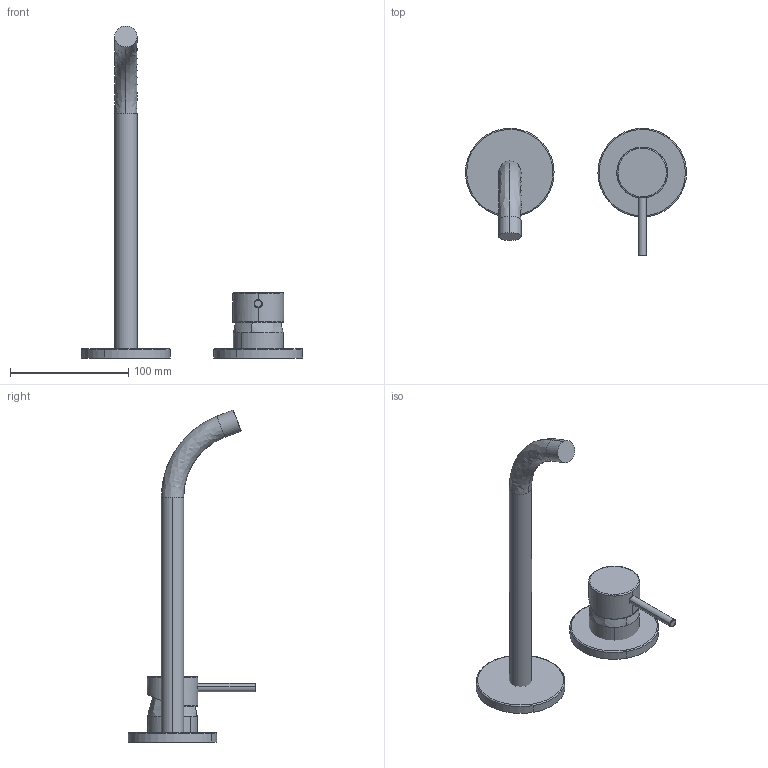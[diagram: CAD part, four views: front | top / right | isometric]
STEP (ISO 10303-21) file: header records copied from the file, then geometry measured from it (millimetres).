
FILE_DESCRIPTION (( 'STEP AP203' ), '1' );
FILE_NAME ('57952171.STEP', '2025-02-25T08:06:17', ( '' ), ( '' ), 'SwSTEP 2.0', 'SolidWorks 2024', '' );
FILE_SCHEMA (( 'CONFIG_CONTROL_DESIGN' ));
Length unit declared in the file: millimetre
Products named in the file (1): 57952171
Bounding box: 186.98 x 107.84 x 280.87 mm (x, y, z)
Volume: 235902.3 mm3; surface area: 53204.4 mm2
Topology: 6 solids, 6 shells, 50 faces, 101 edges, 63 vertices
Faces by surface type: bspline 17, cylinder 16, plane 13, torus 4
Entity records: 1953 total; most frequent: CARTESIAN_POINT 934, ORIENTED_EDGE 202, DIRECTION 183, EDGE_CURVE 101, AXIS2_PLACEMENT_3D 83, VERTEX_POINT 63, FACE_OUTER_BOUND 50, ADVANCED_FACE 50
